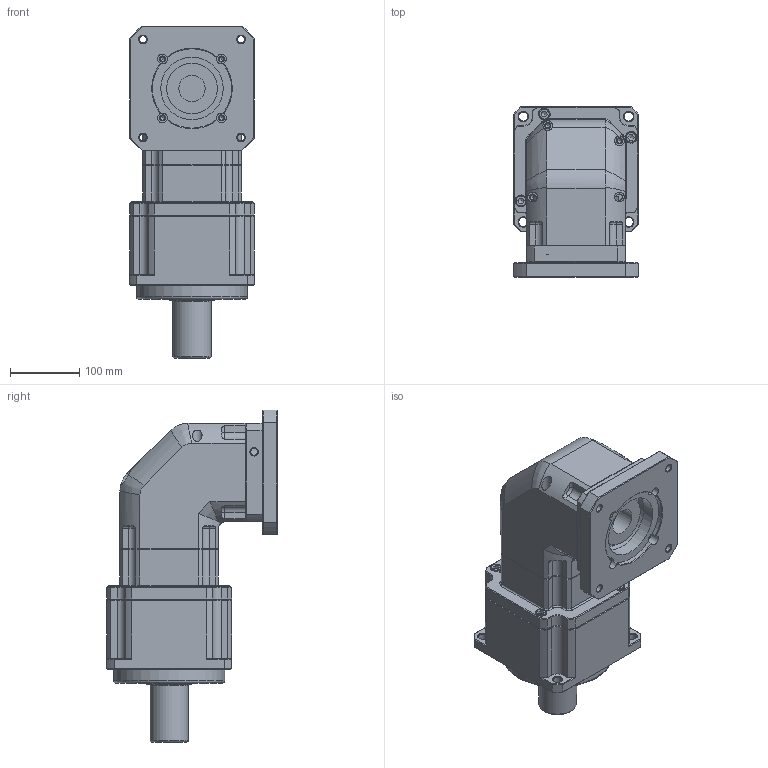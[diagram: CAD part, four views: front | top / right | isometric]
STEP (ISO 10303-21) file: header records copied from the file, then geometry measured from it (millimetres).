
FILE_DESCRIPTION((''),'2;1');
FILE_NAME('C:\Users\nagyu\Desktop\유성감속기-진행자료\도면\3D\1. 홈페이지용 업로드 도면\02. SPL(H) 도면\SPLH180\SPLH180D (2 STAGE-S-A).stp','2012-08-21T09:28:58',('nagyu'),(''),'Autodesk Inventor 2012','Autodesk Inventor 2012','');
FILE_SCHEMA(('AUTOMOTIVE_DESIGN { 1 0 10303 214 1 1 1 1 }'));
Length unit declared in the file: millimetre
Products named in the file (7): SPLH180D 2단; CARRIER CASE(2단); OUTPUT CASE(2단) S TYPE; KS B 1003 - M 10 x 20; SPL142 GEARCASE; 3930659 142(180각 취부용)  INPUT FLANGE; 3930657-142각 INPUT ADAPTER
Assembly tree (9 placements, depth 2):
  SPLH180D 2단
    CARRIER CASE(2단)
    OUTPUT CASE(2단) S TYPE
    KS B 1003 - M 10 x 20  x4
    SPL142 GEARCASE
    3930659 142(180각 취부용)  INPUT FLANGE
    3930657-142각 INPUT ADAPTER
Bounding box: 180 x 246 x 478.4 mm (x, y, z)
Volume: 8387695.2 mm3; surface area: 621704.8 mm2
Topology: 9 solids, 9 shells, 613 faces, 1457 edges, 893 vertices
Faces by surface type: plane 250, cylinder 197, cone 130, torus 32, bspline 4
Full cylindrical faces by diameter (mm): 6.647 x12, 8.7 x8, 9 x4, 10 x4, 10.106 x5, 11 x4, 13 x4, 14 x12, 15 x1, 16 x4, 17 x4, 17.294 x1, 19 x1, 19.1 x1, 22 x1, 38 x1, 44.8 x1, 55 x1, 64.7 x1, 73 x1, 80 x1, 90 x3, 100 x3, 103 x1, 110 x1, 120 x2, 130 x2, 135 x1, 160 x1, 165 x1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
Entity records: 16641 total; most frequent: CARTESIAN_POINT 3954, DIRECTION 2615, ORIENTED_EDGE 2364, EDGE_CURVE 1182, AXIS2_PLACEMENT_3D 1071, VERTEX_POINT 788, EDGE_LOOP 784, FACE_OUTER_BOUND 568
